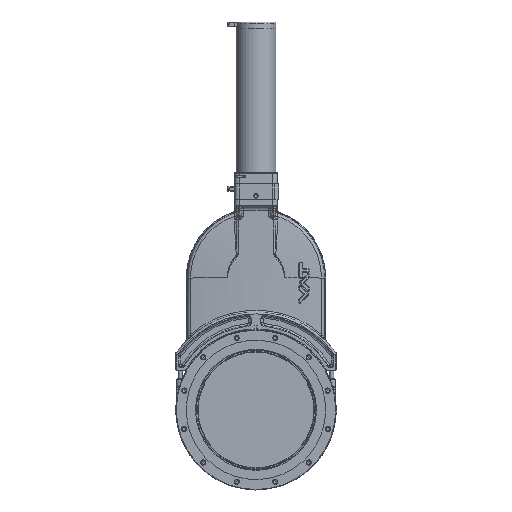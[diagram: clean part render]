
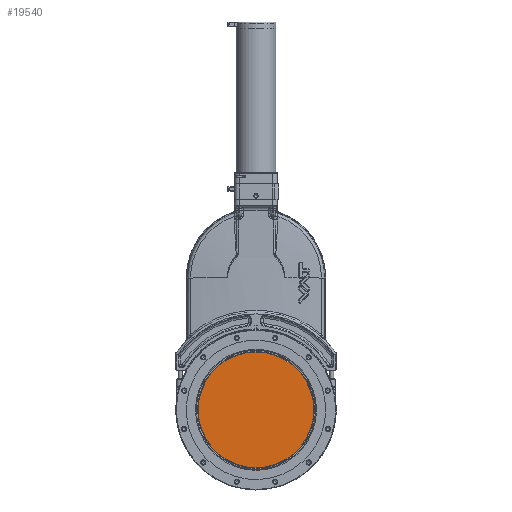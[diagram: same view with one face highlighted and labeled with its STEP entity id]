
A CAD part, top view. The second image highlights one B-rep face of the part: STEP entity #19540.
In plain terms, the highlighted planar face has unit normal (0, 0, 1).
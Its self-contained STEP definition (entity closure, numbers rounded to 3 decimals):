
#19540=ADVANCED_FACE('',(#22594),#20475,.T.);
#20475=PLANE('',#58102);
#22594=FACE_OUTER_BOUND('',#26122,.T.);
#26122=EDGE_LOOP('',(#40047));
#27856=CIRCLE('',#58101,153.459);
#40047=ORIENTED_EDGE('',*,*,#50373,.F.);
#44246=VERTEX_POINT('',#118065);
#50373=EDGE_CURVE('',#44246,#44246,#27856,.T.);
#58101=AXIS2_PLACEMENT_3D('',#118064,#67803,#67804);
#58102=AXIS2_PLACEMENT_3D('',#118066,#67805,#67806);
#67803=DIRECTION('',(0.,0.,-1.));
#67804=DIRECTION('',(-1.,0.,0.));
#67805=DIRECTION('',(0.,0.,1.));
#67806=DIRECTION('',(1.,0.,0.));
#118064=CARTESIAN_POINT('',(0.,0.,17.226));
#118065=CARTESIAN_POINT('',(-153.459,0.,17.226));
#118066=CARTESIAN_POINT('',(0.,153.459,17.226));
